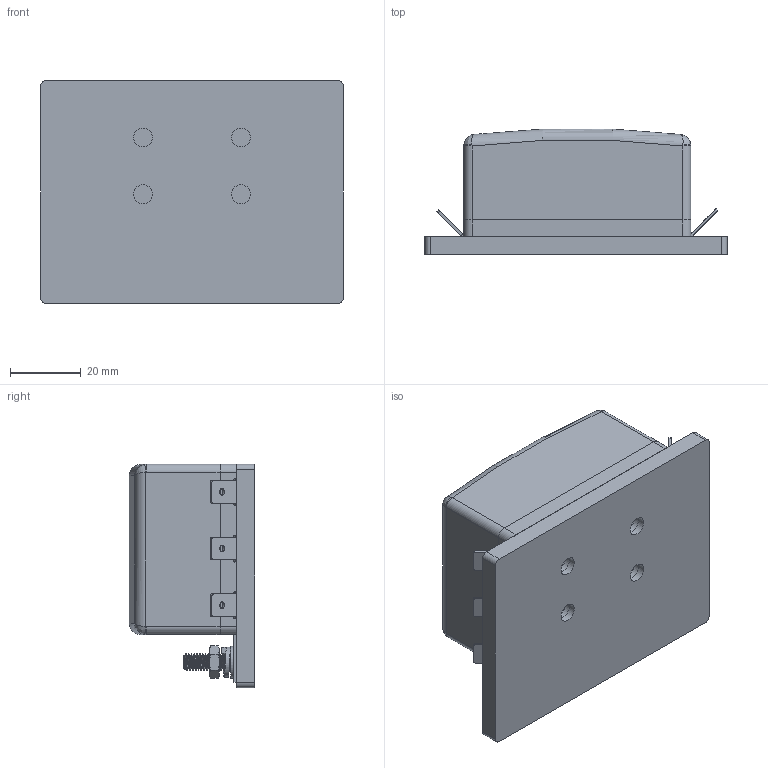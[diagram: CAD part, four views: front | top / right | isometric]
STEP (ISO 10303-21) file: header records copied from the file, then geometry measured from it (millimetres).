
FILE_DESCRIPTION(/* description */ (''),/* implementation_level */ '2;1');
FILE_NAME(/* name */ 'C:\Users\Hani\Desktop\work\BLM-I-306\BLM-I-306.stp',/* time_stamp */ '2021-07-07T14:07:28-07:00',/* author */ ('Hani'),/* organization */ (''),/* preprocessor_version */ 'ST-DEVELOPER v17',/* originating_system */ 'Autodesk Inventor 2019',/* authorisation */ '');
FILE_SCHEMA (('AUTOMOTIVE_DESIGN { 1 0 10303 214 3 1 1 }'));
Length unit declared in the file: inch
Products named in the file (11): BLM-I-306; 306-base; BLM-I-306_1; plate2; STUD; WASHER; LOCK WASHER; HEX NUT; terminal; terminal_MIR1; BLR-306-Cover
Assembly tree (14 placements, depth 2):
  BLM-I-306
    306-base
    BLM-I-306_1
    plate2
    STUD
    WASHER
    LOCK WASHER
    HEX NUT
    terminal  x3
    terminal_MIR1  x3
    BLR-306-Cover
Bounding box: 85.24 x 35.37 x 62.99 mm (x, y, z)
Volume: 146772.1 mm3; surface area: 42375.3 mm2
Topology: 14 solids, 14 shells, 876 faces, 2301 edges, 1492 vertices
Faces by surface type: plane 519, bspline 145, cylinder 135, cone 48, torus 19, sphere 10
Full cylindrical faces by diameter (mm): 1.905 x6, 2.54 x6, 3.769 x16, 3.795 x1, 4.775 x1, 4.801 x17, 4.826 x3, 4.953 x1, 5.309 x8, 6.706 x2, 7.087 x4, 8.992 x1, 10.617 x2
Entity records: 30447 total; most frequent: CARTESIAN_POINT 11035, ORIENTED_EDGE 4238, DIRECTION 3390, EDGE_CURVE 2119, LINE 1390, VECTOR 1390, VERTEX_POINT 1380, AXIS2_PLACEMENT_3D 1000
